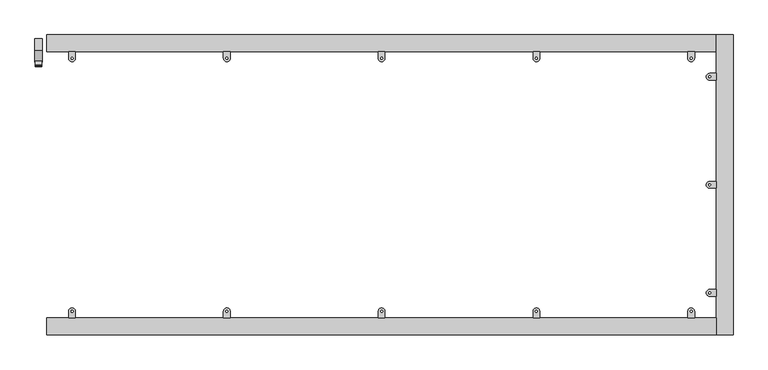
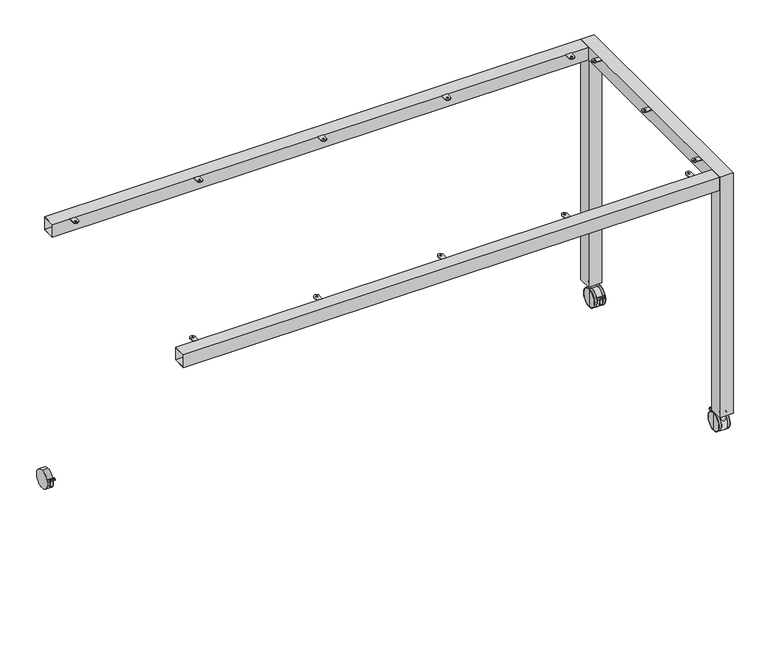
"""IFC4 building model written with IfcOpenShell, lengths in millimetres: furniture geometry, Tables with Castors : Tables with Castors."""

from ifc_helpers import new_model, si_unit, point, frame, frame_2d, origin, place, context, project, spatial, polyline, circle_curve, ellipse_curve, trimmed, segment, composite_curve, outline, extrude, faceted_brep, source, transform, mapped, element, save
from ifc_brep_helpers import plane_surface, cylinder_surface, revolved_surface, advanced_brep


def furniture_1f2e3726(model_context):
    return source(origin(), model_context, "Body", "SolidModel", [
        extrude(outline(composite_curve([segment(polyline([(-471.2500113, -397.5000094), (-471.2500113, -377.5000129)]), True, "CONTINUOUS"), segment(trimmed(circle_curve(frame_2d((-461.250004, -377.5000129)), 10.0000073), [point((-471.2500113, -377.5000129))], [point((-451.2499967, -377.5000129))], False, "CARTESIAN"), True, "CONTINUOUS"), segment(polyline([(-451.2499967, -377.5000129), (-451.2499967, -397.5000094), (-471.2500113, -397.5000094)]), True, "CONTINUOUS")], self_intersect=False), holes=[composite_curve([segment(trimmed(circle_curve(frame_2d((-461.250004, -377.5000129)), 3.0000178), [point((-461.250004, -380.5000308))], [point((-461.250004, -374.4999951))], True, "CARTESIAN"), True, "CONTINUOUS"), segment(trimmed(circle_curve(frame_2d((-461.250004, -377.5000129)), 3.0000178), [point((-461.250004, -374.4999951))], [point((-461.250004, -380.5000308))], True, "CARTESIAN"), True, "CONTINUOUS")], self_intersect=False)]), frame((0.0, 0.0, 1023.0000078), z_axis=(0.0, 0.0, 1.0), x_axis=(1.0, 0.0, 0.0)), (0.0, 0.0, 1.0), 2.0),
        extrude(outline(composite_curve([segment(polyline([(471.2500113, -397.5000094), (451.2499967, -397.5000094), (451.2499967, -377.5000129)]), True, "CONTINUOUS"), segment(trimmed(circle_curve(frame_2d((461.250004, -377.5000129)), 10.0000073), [point((451.2499967, -377.5000129))], [point((471.2500113, -377.5000129))], False, "CARTESIAN"), True, "CONTINUOUS"), segment(polyline([(471.2500113, -377.5000129), (471.2500113, -397.5000094)]), True, "CONTINUOUS")], self_intersect=False), holes=[composite_curve([segment(trimmed(circle_curve(frame_2d((461.250004, -377.5000129)), 3.0000178), [point((461.250004, -380.5000308))], [point((461.250004, -374.4999951))], True, "CARTESIAN"), True, "CONTINUOUS"), segment(trimmed(circle_curve(frame_2d((461.250004, -377.5000129)), 3.0000178), [point((461.250004, -374.4999951))], [point((461.250004, -380.5000308))], True, "CARTESIAN"), True, "CONTINUOUS")], self_intersect=False)]), frame((0.0, 0.0, 1023.0000078), z_axis=(0.0, 0.0, 1.0), x_axis=(1.0, 0.0, 0.0)), (0.0, 0.0, 1.0), 2.0),
        extrude(outline(composite_curve([segment(polyline([(-10.0000073, -397.5000094), (-10.0000073, -377.5000129)]), True, "CONTINUOUS"), segment(trimmed(circle_curve(frame_2d((0.0, -377.5000129)), 10.0000073), [point((-10.0000073, -377.5000129))], [point((10.0000073, -377.5000129))], False, "CARTESIAN"), True, "CONTINUOUS"), segment(polyline([(10.0000073, -377.5000129), (10.0000073, -397.5000094), (-10.0000073, -397.5000094)]), True, "CONTINUOUS")], self_intersect=False), holes=[composite_curve([segment(trimmed(circle_curve(frame_2d((0.0, -377.5000129)), 3.0000178), [point((0.0, -380.5000308))], [point((0.0, -374.4999951))], True, "CARTESIAN"), True, "CONTINUOUS"), segment(trimmed(circle_curve(frame_2d((0.0, -377.5000129)), 3.0000178), [point((0.0, -374.4999951))], [point((0.0, -380.5000308))], True, "CARTESIAN"), True, "CONTINUOUS")], self_intersect=False)]), frame((0.0, 0.0, 1023.0000078), z_axis=(0.0, 0.0, 1.0), x_axis=(1.0, 0.0, 0.0)), (0.0, 0.0, 1.0), 2.0),
        extrude(outline(composite_curve([segment(polyline([(-932.5000154, -397.5000094), (-932.5000154, -377.5000129)]), True, "CONTINUOUS"), segment(trimmed(circle_curve(frame_2d((-922.500008, -377.5000129)), 10.0000073), [point((-932.5000154, -377.5000129))], [point((-912.5000007, -377.5000129))], False, "CARTESIAN"), True, "CONTINUOUS"), segment(polyline([(-912.5000007, -377.5000129), (-912.5000007, -397.5000094), (-932.5000154, -397.5000094)]), True, "CONTINUOUS")], self_intersect=False), holes=[composite_curve([segment(trimmed(circle_curve(frame_2d((-922.500008, -377.5000129)), 3.0000178), [point((-922.500008, -380.5000308))], [point((-922.500008, -374.4999951))], True, "CARTESIAN"), True, "CONTINUOUS"), segment(trimmed(circle_curve(frame_2d((-922.500008, -377.5000129)), 3.0000178), [point((-922.500008, -374.4999951))], [point((-922.500008, -380.5000308))], True, "CARTESIAN"), True, "CONTINUOUS")], self_intersect=False)]), frame((0.0, 0.0, 1023.0000078), z_axis=(0.0, 0.0, 1.0), x_axis=(1.0, 0.0, 0.0)), (0.0, 0.0, 1.0), 2.0),
        extrude(outline(composite_curve([segment(polyline([(932.5000154, -397.5000094), (912.5000007, -397.5000094), (912.5000007, -377.5000129)]), True, "CONTINUOUS"), segment(trimmed(circle_curve(frame_2d((922.500008, -377.5000129)), 10.0000073), [point((912.5000007, -377.5000129))], [point((932.5000154, -377.5000129))], False, "CARTESIAN"), True, "CONTINUOUS"), segment(polyline([(932.5000154, -377.5000129), (932.5000154, -397.5000094)]), True, "CONTINUOUS")], self_intersect=False), holes=[composite_curve([segment(trimmed(circle_curve(frame_2d((922.500008, -377.5000129)), 3.0000178), [point((922.500008, -380.5000308))], [point((922.500008, -374.4999951))], True, "CARTESIAN"), True, "CONTINUOUS"), segment(trimmed(circle_curve(frame_2d((922.500008, -377.5000129)), 3.0000178), [point((922.500008, -374.4999951))], [point((922.500008, -380.5000308))], True, "CARTESIAN"), True, "CONTINUOUS")], self_intersect=False)]), frame((0.0, 0.0, 1023.0000078), z_axis=(0.0, 0.0, 1.0), x_axis=(1.0, 0.0, 0.0)), (0.0, 0.0, 1.0), 2.0),
        extrude(outline(polyline([(-447.5000115, 975.0000074), (-447.5000115, 1025.0000078), (-397.5000094, 1025.0000078), (-397.5000094, 975.0000074), (-447.5000115, 975.0000074)]), holes=[polyline([(-445.5000115, 977.0000307), (-399.50001, 977.0000307), (-399.50001, 1022.9999846), (-445.5000115, 1022.9999846), (-445.5000115, 977.0000307)])]), frame((-997.500008, 0.0, 0.0), z_axis=(1.0, 0.0, 0.0), x_axis=(0.0, 1.0, 0.0)), (0.0, 0.0, 1.0), 1995.000016),
        extrude(outline(composite_curve([segment(polyline([(357.9685066, 48.9081939), (361.2352403, 46.687017), (361.2352403, 27.7839799)]), True, "CONTINUOUS"), segment(trimmed(circle_curve(frame_2d((362.6016558, 27.7839799)), 1.3664155), [point((361.2352403, 27.7839799))], [point((362.6016558, 26.4175645))], True, "CARTESIAN"), True, "CONTINUOUS"), segment(polyline([(362.6016558, 26.4175645), (367.1160325, 26.4175645)]), True, "CONTINUOUS"), segment(trimmed(circle_curve(frame_2d((401.0474609, 35.0000007)), 35.0000007), [point((367.1160325, 26.4175645))], [point((368.1142136, 23.1508966))], True, "CARTESIAN"), True, "CONTINUOUS"), segment(polyline([(368.1142136, 23.1508966), (362.6068348, 23.1508966)]), True, "CONTINUOUS"), segment(trimmed(circle_curve(frame_2d((362.6068348, 27.7892248)), 4.6383283), [point((362.6068348, 23.1508966))], [point((357.9685066, 27.7892248))], False, "CARTESIAN"), True, "CONTINUOUS"), segment(polyline([(357.9685066, 27.7892248), (357.9685066, 48.9081939)]), True, "CONTINUOUS")], self_intersect=False)), frame((1019.2332006, 0.0, 0.0), z_axis=(1.0, 0.0, 0.0), x_axis=(0.0, 1.0, 0.0)), (0.0, 0.0, 1.0), 6.5333221),
        extrude(outline(composite_curve([segment(polyline([(357.6505092, 58.7178702), (369.6843508, 50.535617)]), True, "CONTINUOUS"), segment(trimmed(circle_curve(frame_2d((401.0474609, 35.0000007)), 35.0000007), [point((369.6843508, 50.535617))], [point((366.9309416, 42.8142925))], True, "CARTESIAN"), True, "CONTINUOUS"), segment(polyline([(366.9309416, 42.8142925), (353.4577649, 51.9752192)]), True, "CONTINUOUS"), segment(trimmed(circle_curve(frame_2d((355.0166454, 54.267899)), 2.7724518), [point((353.4577649, 51.9752192))], [point((353.0562119, 56.2283044))], False, "CARTESIAN"), True, "CONTINUOUS"), segment(polyline([(353.0562119, 56.2283044), (355.3263057, 58.4984306)]), True, "CONTINUOUS"), segment(trimmed(circle_curve(frame_2d((356.6210037, 57.203751)), 1.8309665), [point((355.3263057, 58.4984306))], [point((357.6505092, 58.7178702))], False, "CARTESIAN"), True, "CONTINUOUS")], self_intersect=False)), frame((1013.1667104, 0.0, 0.0), z_axis=(1.0, 0.0, 0.0), x_axis=(0.0, 1.0, 0.0)), (0.0, 0.0, 1.0), 18.6665932),
        extrude(outline(composite_curve([segment(trimmed(circle_curve(frame_2d((401.0474609, 35.0000007)), 35.0000007), [point((401.0474609, 70.0000014))], [point((401.0474609, 0.0))], False, "CARTESIAN"), True, "CONTINUOUS"), segment(trimmed(circle_curve(frame_2d((401.0474609, 35.0000007)), 35.0000007), [point((401.0474609, 0.0))], [point((401.0474609, 70.0000014))], False, "CARTESIAN"), True, "CONTINUOUS")], self_intersect=False)), frame((1011.7665052, 0.0, 0.0), z_axis=(1.0, 0.0, 0.0), x_axis=(0.0, 1.0, 0.0)), (0.0, 0.0, 1.0), 21.466713),
        advanced_brep(
        [(1027.5001378, 422.5000032, 104.1413359), (1017.4998761, 422.5000032, 104.1413359), (1018.5001058, 422.5000032, 105.0000044), (1026.4999082, 422.5000032, 105.0000044), (1027.5001378, 422.5000032, 84.9999988), (1017.4998761, 422.5000032, 84.9999988), (1029.5000157, 422.5000032, 84.9999988), (1015.4999982, 422.5000032, 84.9999988), (1029.5000157, 422.5000032, 80.0000042), (1015.4999982, 422.5000032, 80.0000042), (1032.3172355, 422.5000032, 80.0000042), (1012.6827784, 422.5000032, 80.0000042), (1033.2335088, 422.5000032, 79.083731), (1011.7665052, 422.5000032, 79.083731), (1033.2335088, 422.5000032, 47.275048), (1011.7665052, 422.5000032, 47.275048), (1022.500007, 422.5000032, 47.275048), (1022.500007, 422.5000032, 105.0000044)],
        [
            (0, 1, circle_curve(frame((1022.500007, 422.5000032, 104.1413359), z_axis=(0.0, 0.0, 1.0), x_axis=(-1.0, 0.0, 0.0)), 5.0001308)),
            (1, 2),
            (2, 3, circle_curve(frame((1022.500007, 422.5000032, 105.0000044), z_axis=(0.0, 0.0, -1.0), x_axis=(-1.0, 0.0, 0.0)), 3.9999012)),
            (3, 0),
            (1, 0, circle_curve(frame((1022.500007, 422.5000032, 104.1413359), z_axis=(0.0, 0.0, 1.0), x_axis=(-1.0, 0.0, 0.0)), 5.0001308)),
            (3, 2, circle_curve(frame((1022.500007, 422.5000032, 105.0000044), z_axis=(0.0, 0.0, -1.0), x_axis=(-1.0, 0.0, 0.0)), 3.9999012)),
            (4, 5, circle_curve(frame((1022.500007, 422.5000032, 84.9999988), z_axis=(0.0, 0.0, 1.0), x_axis=(-1.0, 0.0, 0.0)), 5.0001308)),
            (5, 1),
            (0, 4),
            (5, 4, circle_curve(frame((1022.500007, 422.5000032, 84.9999988), z_axis=(0.0, 0.0, 1.0), x_axis=(-1.0, 0.0, 0.0)), 5.0001308)),
            (6, 7, circle_curve(frame((1022.500007, 422.5000032, 84.9999988), z_axis=(0.0, 0.0, 1.0), x_axis=(-1.0, 0.0, 0.0)), 7.0000088)),
            (7, 5),
            (4, 6),
            (7, 6, circle_curve(frame((1022.500007, 422.5000032, 84.9999988), z_axis=(0.0, 0.0, 1.0), x_axis=(-1.0, 0.0, 0.0)), 7.0000088)),
            (8, 9, circle_curve(frame((1022.500007, 422.5000032, 80.0000042), z_axis=(0.0, 0.0, 1.0), x_axis=(-1.0, 0.0, 0.0)), 7.0000088)),
            (9, 7),
            (6, 8),
            (9, 8, circle_curve(frame((1022.500007, 422.5000032, 80.0000042), z_axis=(0.0, 0.0, 1.0), x_axis=(-1.0, 0.0, 0.0)), 7.0000088)),
            (10, 11, circle_curve(frame((1022.500007, 422.5000032, 80.0000042), z_axis=(0.0, 0.0, 1.0), x_axis=(-1.0, 0.0, 0.0)), 9.8172285)),
            (11, 9),
            (8, 10),
            (11, 10, circle_curve(frame((1022.500007, 422.5000032, 80.0000042), z_axis=(0.0, 0.0, 1.0), x_axis=(-1.0, 0.0, 0.0)), 9.8172285)),
            (12, 13, circle_curve(frame((1022.500007, 422.5000032, 79.083731), z_axis=(0.0, 0.0, 1.0), x_axis=(-1.0, 0.0, 0.0)), 10.7335018)),
            (13, 11, circle_curve(frame((1012.6827784, 422.5000032, 79.083731), z_axis=(0.0, 1.0, 0.0), x_axis=(1.0, 0.0, 0.0)), 0.9162733)),
            (10, 12, circle_curve(frame((1032.3172355, 422.5000032, 79.083731), z_axis=(0.0, 1.0, 0.0), x_axis=(-1.0, 0.0, 0.0)), 0.9162733)),
            (13, 12, circle_curve(frame((1022.500007, 422.5000032, 79.083731), z_axis=(0.0, 0.0, 1.0), x_axis=(-1.0, 0.0, 0.0)), 10.7335018)),
            (14, 15, circle_curve(frame((1022.500007, 422.5000032, 47.275048), z_axis=(0.0, 0.0, 1.0), x_axis=(-1.0, 0.0, 0.0)), 10.7335018)),
            (15, 13),
            (12, 14),
            (15, 14, circle_curve(frame((1022.500007, 422.5000032, 47.275048), z_axis=(0.0, 0.0, 1.0), x_axis=(-1.0, 0.0, 0.0)), 10.7335018)),
            (16, 15),
            (14, 16),
            (2, 17),
            (17, 3),
        ],
        [
            revolved_surface(polyline([(1018.5001058, 422.5000032, 105.0000044), (1017.4998761, 422.5000032, 104.1413359)]), (1022.500007, 422.5000032, 106.1065775), (0.0, 0.0, -1.0)),
            cylinder_surface(frame((1022.500007, 422.5000032, 106.1065775), z_axis=(0.0, 0.0, -1.0), x_axis=(-1.0, 0.0, 0.0)), 5.0001308),
            plane_surface(frame((1022.500007, 422.5000032, 84.9999988), z_axis=(0.0, 0.0, 1.0), x_axis=(-1.0, 0.0, 0.0))),
            cylinder_surface(frame((1022.500007, 422.5000032, 106.1065775), z_axis=(0.0, 0.0, -1.0), x_axis=(-1.0, 0.0, 0.0)), 7.0000088),
            plane_surface(frame((1022.500007, 422.5000032, 80.0000042), z_axis=(0.0, 0.0, 1.0), x_axis=(-1.0, 0.0, 0.0))),
            revolved_surface(trimmed(ellipse_curve(frame((1012.6827784, 422.5000032, 79.083731), z_axis=(0.0, -1.0, 0.0), x_axis=(1.0, 0.0, 0.0)), 0.9162733, 0.9162733), [point((1012.6827784, 422.5000032, 80.0000042))], [point((1011.7665052, 422.5000032, 79.083731))], True, "CARTESIAN"), (1022.500007, 422.5000032, 106.1065775), (0.0, 0.0, -1.0)),
            cylinder_surface(frame((1022.500007, 422.5000032, 106.1065775), z_axis=(0.0, 0.0, -1.0), x_axis=(-1.0, 0.0, 0.0)), 10.7335018),
            plane_surface(frame((1022.500007, 422.5000032, 47.275048), z_axis=(0.0, 0.0, -1.0), x_axis=(-1.0, 0.0, 0.0))),
            plane_surface(frame((1022.500007, 422.5000032, 105.0000044), z_axis=(0.0, 0.0, 1.0), x_axis=(-1.0, 0.0, 0.0))),
        ],
        [
            (0, [[1, 2, 3, 4]]),
            (0, [[5, -4, 6, -2]]),
            (1, [[7, 8, -1, 9]]),
            (1, [[10, -9, -5, -8]]),
            (2, [[11, 12, -7, 13]]),
            (2, [[14, -13, -10, -12]]),
            (3, [[15, 16, -11, 17]]),
            (3, [[18, -17, -14, -16]]),
            (4, [[19, 20, -15, 21]]),
            (4, [[22, -21, -18, -20]]),
            (5, [[23, 24, -19, 25]]),
            (5, [[26, -25, -22, -24]]),
            (6, [[27, 28, -23, 29]]),
            (6, [[30, -29, -26, -28]]),
            (7, [[31, -27, 32]]),
            (7, [[-32, -30, -31]]),
            (8, [[-3, 33, 34]]),
            (8, [[-6, -34, -33]]),
        ],
    ),
        advanced_brep(
        [(1001.4999806, 401.0474609, 1.0), (1001.4999806, 401.0474609, 69.0000014), (1002.4999806, 401.0474609, 70.0000014), (1002.4999806, 401.0474609, 0.0), (1001.4999806, 401.0474609, 35.0000007), (1011.7665052, 401.0474609, 0.0), (1011.7665052, 401.0474609, 70.0000014), (1011.7665052, 401.0474609, 35.0000007)],
        [
            (0, 1, circle_curve(frame((1001.4999806, 401.0474609, 35.0000007), z_axis=(1.0, 0.0, 0.0), x_axis=(0.0, 0.0, 1.0)), 34.0000007)),
            (1, 2, circle_curve(frame((1002.4999806, 401.0474609, 69.0000014), z_axis=(0.0, 1.0, 0.0), x_axis=(1.0, 0.0, 0.0)), 1.0)),
            (2, 3, circle_curve(frame((1002.4999806, 401.0474609, 35.0000007), z_axis=(-1.0, 0.0, 0.0), x_axis=(0.0, 0.0, 1.0)), 35.0000007)),
            (3, 0, circle_curve(frame((1002.4999806, 401.0474609, 1.0), z_axis=(0.0, 1.0, 0.0), x_axis=(1.0, 0.0, 0.0)), 1.0)),
            (1, 0, circle_curve(frame((1001.4999806, 401.0474609, 35.0000007), z_axis=(1.0, 0.0, 0.0), x_axis=(0.0, 0.0, 1.0)), 34.0000007)),
            (3, 2, circle_curve(frame((1002.4999806, 401.0474609, 35.0000007), z_axis=(-1.0, 0.0, 0.0), x_axis=(0.0, 0.0, 1.0)), 35.0000007)),
            (4, 1),
            (0, 4),
            (5, 6, circle_curve(frame((1011.7665052, 401.0474609, 35.0000007), z_axis=(1.0, 0.0, 0.0), x_axis=(0.0, 0.0, 1.0)), 35.0000007)),
            (6, 7),
            (7, 5),
            (6, 5, circle_curve(frame((1011.7665052, 401.0474609, 35.0000007), z_axis=(1.0, 0.0, 0.0), x_axis=(0.0, 0.0, 1.0)), 35.0000007)),
            (2, 6),
            (5, 3),
        ],
        [
            revolved_surface(trimmed(ellipse_curve(frame((1002.4999806, 401.0474609, 69.0000014), z_axis=(0.0, -1.0, 0.0), x_axis=(1.0, 0.0, 0.0)), 1.0, 1.0), [point((1002.4999806, 401.0474609, 70.0000014))], [point((1001.4999806, 401.0474609, 69.0000014))], True, "CARTESIAN"), (1011.7665052, 401.0474609, 35.0000007), (-1.0, 0.0, 0.0)),
            plane_surface(frame((1001.4999806, 401.0474609, 35.0000007), z_axis=(-1.0, 0.0, 0.0), x_axis=(0.0, 0.0, 1.0))),
            plane_surface(frame((1011.7665052, 401.0474609, 35.0000007), z_axis=(1.0, 0.0, 0.0), x_axis=(0.0, 0.0, 1.0))),
            cylinder_surface(frame((1011.7665052, 401.0474609, 35.0000007), z_axis=(-1.0, 0.0, 0.0), x_axis=(0.0, 0.0, 1.0)), 35.0000007),
        ],
        [
            (0, [[1, 2, 3, 4]]),
            (0, [[5, -4, 6, -2]]),
            (1, [[7, -1, 8]]),
            (1, [[-8, -5, -7]]),
            (2, [[9, 10, 11]]),
            (2, [[12, -11, -10]]),
            (3, [[-3, 13, -9, 14]]),
            (3, [[-6, -14, -12, -13]]),
        ],
    ),
        advanced_brep(
        [(1033.2332181, 401.0474609, 0.0), (1033.2332181, 401.0474609, 70.0000014), (1042.4997426, 401.0474609, 70.0000014), (1042.4997426, 401.0474609, 0.0), (1033.2332181, 401.0474609, 35.0000007), (1043.4997426, 401.0474609, 1.0), (1043.4997426, 401.0474609, 69.0000014), (1043.4997426, 401.0474609, 35.0000007)],
        [
            (0, 1, circle_curve(frame((1033.2332181, 401.0474609, 35.0000007), z_axis=(1.0, 0.0, 0.0), x_axis=(0.0, 0.0, 1.0)), 35.0000007)),
            (1, 2),
            (2, 3, circle_curve(frame((1042.4997426, 401.0474609, 35.0000007), z_axis=(-1.0, 0.0, 0.0), x_axis=(0.0, 0.0, 1.0)), 35.0000007)),
            (3, 0),
            (1, 0, circle_curve(frame((1033.2332181, 401.0474609, 35.0000007), z_axis=(1.0, 0.0, 0.0), x_axis=(0.0, 0.0, 1.0)), 35.0000007)),
            (3, 2, circle_curve(frame((1042.4997426, 401.0474609, 35.0000007), z_axis=(-1.0, 0.0, 0.0), x_axis=(0.0, 0.0, 1.0)), 35.0000007)),
            (4, 1),
            (0, 4),
            (5, 6, circle_curve(frame((1043.4997426, 401.0474609, 35.0000007), z_axis=(1.0, 0.0, 0.0), x_axis=(0.0, 0.0, 1.0)), 34.0000007)),
            (6, 7),
            (7, 5),
            (6, 5, circle_curve(frame((1043.4997426, 401.0474609, 35.0000007), z_axis=(1.0, 0.0, 0.0), x_axis=(0.0, 0.0, 1.0)), 34.0000007)),
            (2, 6, circle_curve(frame((1042.4997426, 401.0474609, 69.0000014), z_axis=(0.0, 1.0, 0.0), x_axis=(-1.0, 0.0, 0.0)), 1.0)),
            (5, 3, circle_curve(frame((1042.4997426, 401.0474609, 1.0), z_axis=(0.0, 1.0, 0.0), x_axis=(-1.0, 0.0, 0.0)), 1.0)),
        ],
        [
            cylinder_surface(frame((1011.7665052, 401.0474609, 35.0000007), z_axis=(-1.0, 0.0, 0.0), x_axis=(0.0, 0.0, 1.0)), 35.0000007),
            plane_surface(frame((1033.2332181, 401.0474609, 35.0000007), z_axis=(-1.0, 0.0, 0.0), x_axis=(0.0, 0.0, 1.0))),
            plane_surface(frame((1043.4997426, 401.0474609, 35.0000007), z_axis=(1.0, 0.0, 0.0), x_axis=(0.0, 0.0, 1.0))),
            revolved_surface(trimmed(ellipse_curve(frame((1042.4997426, 401.0474609, 69.0000014), z_axis=(0.0, -1.0, 0.0), x_axis=(-1.0, 0.0, 0.0)), 1.0, 1.0), [point((1043.4997426, 401.0474609, 69.0000014))], [point((1042.4997426, 401.0474609, 70.0000014))], True, "CARTESIAN"), (1011.7665052, 401.0474609, 35.0000007), (-1.0, 0.0, 0.0)),
        ],
        [
            (0, [[1, 2, 3, 4]]),
            (0, [[5, -4, 6, -2]]),
            (1, [[7, -1, 8]]),
            (1, [[-8, -5, -7]]),
            (2, [[9, 10, 11]]),
            (2, [[12, -11, -10]]),
            (3, [[-3, 13, -9, 14]]),
            (3, [[-6, -14, -12, -13]]),
        ],
    ),
        extrude(outline(composite_curve([segment(polyline([(-357.9685066, 48.9081939), (-357.9685066, 27.7892248)]), True, "CONTINUOUS"), segment(trimmed(circle_curve(frame_2d((-362.6068348, 27.7892248)), 4.6383283), [point((-357.9685066, 27.7892248))], [point((-362.6068348, 23.1508966))], False, "CARTESIAN"), True, "CONTINUOUS"), segment(polyline([(-362.6068348, 23.1508966), (-368.1142136, 23.1508966)]), True, "CONTINUOUS"), segment(trimmed(circle_curve(frame_2d((-401.0474609, 35.0000007)), 35.0000007), [point((-368.1142136, 23.1508966))], [point((-367.1160325, 26.4175645))], True, "CARTESIAN"), True, "CONTINUOUS"), segment(polyline([(-367.1160325, 26.4175645), (-362.6016558, 26.4175645)]), True, "CONTINUOUS"), segment(trimmed(circle_curve(frame_2d((-362.6016558, 27.7839799)), 1.3664155), [point((-362.6016558, 26.4175645))], [point((-361.2352403, 27.7839799))], True, "CARTESIAN"), True, "CONTINUOUS"), segment(polyline([(-361.2352403, 27.7839799), (-361.2352403, 46.687017), (-357.9685066, 48.9081939)]), True, "CONTINUOUS")], self_intersect=False)), frame((1019.2332006, 0.0, 0.0), z_axis=(1.0, 0.0, 0.0), x_axis=(0.0, 1.0, 0.0)), (0.0, 0.0, 1.0), 6.5333221),
        extrude(outline(composite_curve([segment(trimmed(circle_curve(frame_2d((-356.6210037, 57.203751)), 1.8309665), [point((-357.6505092, 58.7178702))], [point((-355.3263057, 58.4984306))], False, "CARTESIAN"), True, "CONTINUOUS"), segment(polyline([(-355.3263057, 58.4984306), (-353.0562119, 56.2283044)]), True, "CONTINUOUS"), segment(trimmed(circle_curve(frame_2d((-355.0166454, 54.267899)), 2.7724518), [point((-353.0562119, 56.2283044))], [point((-353.4577649, 51.9752192))], False, "CARTESIAN"), True, "CONTINUOUS"), segment(polyline([(-353.4577649, 51.9752192), (-366.9309416, 42.8142925)]), True, "CONTINUOUS"), segment(trimmed(circle_curve(frame_2d((-401.0474609, 35.0000007)), 35.0000007), [point((-366.9309416, 42.8142925))], [point((-369.6843508, 50.535617))], True, "CARTESIAN"), True, "CONTINUOUS"), segment(polyline([(-369.6843508, 50.535617), (-357.6505092, 58.7178702)]), True, "CONTINUOUS")], self_intersect=False)), frame((1013.1667104, 0.0, 0.0), z_axis=(1.0, 0.0, 0.0), x_axis=(0.0, 1.0, 0.0)), (0.0, 0.0, 1.0), 18.6665932),
        extrude(outline(composite_curve([segment(trimmed(circle_curve(frame_2d((-401.0474609, 35.0000007)), 35.0000007), [point((-401.0474609, 70.0000014))], [point((-401.0474609, 0.0))], False, "CARTESIAN"), True, "CONTINUOUS"), segment(trimmed(circle_curve(frame_2d((-401.0474609, 35.0000007)), 35.0000007), [point((-401.0474609, 0.0))], [point((-401.0474609, 70.0000014))], False, "CARTESIAN"), True, "CONTINUOUS")], self_intersect=False)), frame((1011.7665052, 0.0, 0.0), z_axis=(1.0, 0.0, 0.0), x_axis=(0.0, 1.0, 0.0)), (0.0, 0.0, 1.0), 21.466713),
        advanced_brep(
        [(1027.5001378, -422.5000032, 104.1413359), (1026.4999082, -422.5000032, 105.0000044), (1018.5001058, -422.5000032, 105.0000044), (1017.4998761, -422.5000032, 104.1413359), (1027.5001378, -422.5000032, 84.9999988), (1017.4998761, -422.5000032, 84.9999988), (1029.5000157, -422.5000032, 84.9999988), (1015.4999982, -422.5000032, 84.9999988), (1029.5000157, -422.5000032, 80.0000042), (1015.4999982, -422.5000032, 80.0000042), (1032.3172355, -422.5000032, 80.0000042), (1012.6827784, -422.5000032, 80.0000042), (1033.2335088, -422.5000032, 79.083731), (1011.7665052, -422.5000032, 79.083731), (1033.2335088, -422.5000032, 47.275048), (1011.7665052, -422.5000032, 47.275048), (1022.500007, -422.5000032, 47.275048), (1022.500007, -422.5000032, 105.0000044)],
        [
            (0, 1),
            (1, 2, circle_curve(frame((1022.500007, -422.5000032, 105.0000044), z_axis=(0.0, 0.0, -1.0), x_axis=(-1.0, 0.0, 0.0)), 3.9999012)),
            (2, 3),
            (3, 0, circle_curve(frame((1022.500007, -422.5000032, 104.1413359), z_axis=(0.0, 0.0, 1.0), x_axis=(-1.0, 0.0, 0.0)), 5.0001308)),
            (2, 1, circle_curve(frame((1022.500007, -422.5000032, 105.0000044), z_axis=(0.0, 0.0, -1.0), x_axis=(-1.0, 0.0, 0.0)), 3.9999012)),
            (0, 3, circle_curve(frame((1022.500007, -422.5000032, 104.1413359), z_axis=(0.0, 0.0, 1.0), x_axis=(-1.0, 0.0, 0.0)), 5.0001308)),
            (4, 0),
            (3, 5),
            (5, 4, circle_curve(frame((1022.500007, -422.5000032, 84.9999988), z_axis=(0.0, 0.0, 1.0), x_axis=(-1.0, 0.0, 0.0)), 5.0001308)),
            (4, 5, circle_curve(frame((1022.500007, -422.5000032, 84.9999988), z_axis=(0.0, 0.0, 1.0), x_axis=(-1.0, 0.0, 0.0)), 5.0001308)),
            (6, 4),
            (5, 7),
            (7, 6, circle_curve(frame((1022.500007, -422.5000032, 84.9999988), z_axis=(0.0, 0.0, 1.0), x_axis=(-1.0, 0.0, 0.0)), 7.0000088)),
            (6, 7, circle_curve(frame((1022.500007, -422.5000032, 84.9999988), z_axis=(0.0, 0.0, 1.0), x_axis=(-1.0, 0.0, 0.0)), 7.0000088)),
            (8, 6),
            (7, 9),
            (9, 8, circle_curve(frame((1022.500007, -422.5000032, 80.0000042), z_axis=(0.0, 0.0, 1.0), x_axis=(-1.0, 0.0, 0.0)), 7.0000088)),
            (8, 9, circle_curve(frame((1022.500007, -422.5000032, 80.0000042), z_axis=(0.0, 0.0, 1.0), x_axis=(-1.0, 0.0, 0.0)), 7.0000088)),
            (10, 8),
            (9, 11),
            (11, 10, circle_curve(frame((1022.500007, -422.5000032, 80.0000042), z_axis=(0.0, 0.0, 1.0), x_axis=(-1.0, 0.0, 0.0)), 9.8172285)),
            (10, 11, circle_curve(frame((1022.500007, -422.5000032, 80.0000042), z_axis=(0.0, 0.0, 1.0), x_axis=(-1.0, 0.0, 0.0)), 9.8172285)),
            (12, 10, circle_curve(frame((1032.3172355, -422.5000032, 79.083731), z_axis=(0.0, -1.0, 0.0), x_axis=(-1.0, 0.0, 0.0)), 0.9162733)),
            (11, 13, circle_curve(frame((1012.6827784, -422.5000032, 79.083731), z_axis=(0.0, -1.0, 0.0), x_axis=(1.0, 0.0, 0.0)), 0.9162733)),
            (13, 12, circle_curve(frame((1022.500007, -422.5000032, 79.083731), z_axis=(0.0, 0.0, 1.0), x_axis=(-1.0, 0.0, 0.0)), 10.7335018)),
            (12, 13, circle_curve(frame((1022.500007, -422.5000032, 79.083731), z_axis=(0.0, 0.0, 1.0), x_axis=(-1.0, 0.0, 0.0)), 10.7335018)),
            (14, 12),
            (13, 15),
            (15, 14, circle_curve(frame((1022.500007, -422.5000032, 47.275048), z_axis=(0.0, 0.0, 1.0), x_axis=(-1.0, 0.0, 0.0)), 10.7335018)),
            (14, 15, circle_curve(frame((1022.500007, -422.5000032, 47.275048), z_axis=(0.0, 0.0, 1.0), x_axis=(-1.0, 0.0, 0.0)), 10.7335018)),
            (16, 14),
            (15, 16),
            (1, 17),
            (17, 2),
        ],
        [
            revolved_surface(polyline([(1018.5001058, -422.5000032, 105.0000044), (1017.4998761, -422.5000032, 104.1413359)]), (1022.500007, -422.5000032, 106.1065775), (0.0, 0.0, -1.0)),
            cylinder_surface(frame((1022.500007, -422.5000032, 106.1065775), z_axis=(0.0, 0.0, -1.0), x_axis=(-1.0, 0.0, 0.0)), 5.0001308),
            plane_surface(frame((1022.500007, -422.5000032, 84.9999988), z_axis=(0.0, 0.0, 1.0), x_axis=(-1.0, 0.0, 0.0))),
            cylinder_surface(frame((1022.500007, -422.5000032, 106.1065775), z_axis=(0.0, 0.0, -1.0), x_axis=(-1.0, 0.0, 0.0)), 7.0000088),
            plane_surface(frame((1022.500007, -422.5000032, 80.0000042), z_axis=(0.0, 0.0, 1.0), x_axis=(-1.0, 0.0, 0.0))),
            revolved_surface(trimmed(ellipse_curve(frame((1012.6827784, -422.5000032, 79.083731), z_axis=(0.0, -1.0, 0.0), x_axis=(1.0, 0.0, 0.0)), 0.9162733, 0.9162733), [point((1012.6827784, -422.5000032, 80.0000042))], [point((1011.7665052, -422.5000032, 79.083731))], True, "CARTESIAN"), (1022.500007, -422.5000032, 106.1065775), (0.0, 0.0, -1.0)),
            cylinder_surface(frame((1022.500007, -422.5000032, 106.1065775), z_axis=(0.0, 0.0, -1.0), x_axis=(-1.0, 0.0, 0.0)), 10.7335018),
            plane_surface(frame((1022.500007, -422.5000032, 47.275048), z_axis=(0.0, 0.0, -1.0), x_axis=(-1.0, 0.0, 0.0))),
            plane_surface(frame((1022.500007, -422.5000032, 105.0000044), z_axis=(0.0, 0.0, 1.0), x_axis=(-1.0, 0.0, 0.0))),
        ],
        [
            (0, [[1, 2, 3, 4]]),
            (0, [[-3, 5, -1, 6]]),
            (1, [[7, -4, 8, 9]]),
            (1, [[-8, -6, -7, 10]]),
            (2, [[11, -9, 12, 13]]),
            (2, [[-12, -10, -11, 14]]),
            (3, [[15, -13, 16, 17]]),
            (3, [[-16, -14, -15, 18]]),
            (4, [[19, -17, 20, 21]]),
            (4, [[-20, -18, -19, 22]]),
            (5, [[23, -21, 24, 25]]),
            (5, [[-24, -22, -23, 26]]),
            (6, [[27, -25, 28, 29]]),
            (6, [[-28, -26, -27, 30]]),
            (7, [[31, -29, 32]]),
            (7, [[-32, -30, -31]]),
            (8, [[33, 34, -2]]),
            (8, [[-34, -33, -5]]),
        ],
    ),
        advanced_brep(
        [(1001.4999806, -401.0474609, 1.0), (1002.4999806, -401.0474609, 0.0), (1002.4999806, -401.0474609, 70.0000014), (1001.4999806, -401.0474609, 69.0000014), (1001.4999806, -401.0474609, 35.0000007), (1011.7665052, -401.0474609, 0.0), (1011.7665052, -401.0474609, 35.0000007), (1011.7665052, -401.0474609, 70.0000014)],
        [
            (0, 1, circle_curve(frame((1002.4999806, -401.0474609, 1.0), z_axis=(0.0, -1.0, 0.0), x_axis=(1.0, 0.0, 0.0)), 1.0)),
            (1, 2, circle_curve(frame((1002.4999806, -401.0474609, 35.0000007), z_axis=(-1.0, 0.0, 0.0), x_axis=(0.0, 0.0, 1.0)), 35.0000007)),
            (2, 3, circle_curve(frame((1002.4999806, -401.0474609, 69.0000014), z_axis=(0.0, -1.0, 0.0), x_axis=(1.0, 0.0, 0.0)), 1.0)),
            (3, 0, circle_curve(frame((1001.4999806, -401.0474609, 35.0000007), z_axis=(1.0, 0.0, 0.0), x_axis=(0.0, 0.0, 1.0)), 34.0000007)),
            (2, 1, circle_curve(frame((1002.4999806, -401.0474609, 35.0000007), z_axis=(-1.0, 0.0, 0.0), x_axis=(0.0, 0.0, 1.0)), 35.0000007)),
            (0, 3, circle_curve(frame((1001.4999806, -401.0474609, 35.0000007), z_axis=(1.0, 0.0, 0.0), x_axis=(0.0, 0.0, 1.0)), 34.0000007)),
            (4, 0),
            (3, 4),
            (5, 6),
            (6, 7),
            (7, 5, circle_curve(frame((1011.7665052, -401.0474609, 35.0000007), z_axis=(1.0, 0.0, 0.0), x_axis=(0.0, 0.0, 1.0)), 35.0000007)),
            (5, 7, circle_curve(frame((1011.7665052, -401.0474609, 35.0000007), z_axis=(1.0, 0.0, 0.0), x_axis=(0.0, 0.0, 1.0)), 35.0000007)),
            (1, 5),
            (7, 2),
        ],
        [
            revolved_surface(trimmed(ellipse_curve(frame((1002.4999806, -401.0474609, 69.0000014), z_axis=(0.0, -1.0, 0.0), x_axis=(1.0, 0.0, 0.0)), 1.0, 1.0), [point((1002.4999806, -401.0474609, 70.0000014))], [point((1001.4999806, -401.0474609, 69.0000014))], True, "CARTESIAN"), (1011.7665052, -401.0474609, 35.0000007), (-1.0, 0.0, 0.0)),
            plane_surface(frame((1001.4999806, -401.0474609, 35.0000007), z_axis=(-1.0, 0.0, 0.0), x_axis=(0.0, 0.0, 1.0))),
            plane_surface(frame((1011.7665052, -401.0474609, 35.0000007), z_axis=(1.0, 0.0, 0.0), x_axis=(0.0, 0.0, 1.0))),
            cylinder_surface(frame((1011.7665052, -401.0474609, 35.0000007), z_axis=(-1.0, 0.0, 0.0), x_axis=(0.0, 0.0, 1.0)), 35.0000007),
        ],
        [
            (0, [[1, 2, 3, 4]]),
            (0, [[-3, 5, -1, 6]]),
            (1, [[7, -4, 8]]),
            (1, [[-8, -6, -7]]),
            (2, [[9, 10, 11]]),
            (2, [[-10, -9, 12]]),
            (3, [[13, -11, 14, -2]]),
            (3, [[-14, -12, -13, -5]]),
        ],
    ),
        advanced_brep(
        [(1033.2332181, -401.0474609, 0.0), (1042.4997426, -401.0474609, 0.0), (1042.4997426, -401.0474609, 70.0000014), (1033.2332181, -401.0474609, 70.0000014), (1033.2332181, -401.0474609, 35.0000007), (1043.4997426, -401.0474609, 1.0), (1043.4997426, -401.0474609, 35.0000007), (1043.4997426, -401.0474609, 69.0000014)],
        [
            (0, 1),
            (1, 2, circle_curve(frame((1042.4997426, -401.0474609, 35.0000007), z_axis=(-1.0, 0.0, 0.0), x_axis=(0.0, 0.0, 1.0)), 35.0000007)),
            (2, 3),
            (3, 0, circle_curve(frame((1033.2332181, -401.0474609, 35.0000007), z_axis=(1.0, 0.0, 0.0), x_axis=(0.0, 0.0, 1.0)), 35.0000007)),
            (2, 1, circle_curve(frame((1042.4997426, -401.0474609, 35.0000007), z_axis=(-1.0, 0.0, 0.0), x_axis=(0.0, 0.0, 1.0)), 35.0000007)),
            (0, 3, circle_curve(frame((1033.2332181, -401.0474609, 35.0000007), z_axis=(1.0, 0.0, 0.0), x_axis=(0.0, 0.0, 1.0)), 35.0000007)),
            (4, 0),
            (3, 4),
            (5, 6),
            (6, 7),
            (7, 5, circle_curve(frame((1043.4997426, -401.0474609, 35.0000007), z_axis=(1.0, 0.0, 0.0), x_axis=(0.0, 0.0, 1.0)), 34.0000007)),
            (5, 7, circle_curve(frame((1043.4997426, -401.0474609, 35.0000007), z_axis=(1.0, 0.0, 0.0), x_axis=(0.0, 0.0, 1.0)), 34.0000007)),
            (1, 5, circle_curve(frame((1042.4997426, -401.0474609, 1.0), z_axis=(0.0, -1.0, 0.0), x_axis=(-1.0, 0.0, 0.0)), 1.0)),
            (7, 2, circle_curve(frame((1042.4997426, -401.0474609, 69.0000014), z_axis=(0.0, -1.0, 0.0), x_axis=(-1.0, 0.0, 0.0)), 1.0)),
        ],
        [
            cylinder_surface(frame((1011.7665052, -401.0474609, 35.0000007), z_axis=(-1.0, 0.0, 0.0), x_axis=(0.0, 0.0, 1.0)), 35.0000007),
            plane_surface(frame((1033.2332181, -401.0474609, 35.0000007), z_axis=(-1.0, 0.0, 0.0), x_axis=(0.0, 0.0, 1.0))),
            plane_surface(frame((1043.4997426, -401.0474609, 35.0000007), z_axis=(1.0, 0.0, 0.0), x_axis=(0.0, 0.0, 1.0))),
            revolved_surface(trimmed(ellipse_curve(frame((1042.4997426, -401.0474609, 69.0000014), z_axis=(0.0, -1.0, 0.0), x_axis=(-1.0, 0.0, 0.0)), 1.0, 1.0), [point((1043.4997426, -401.0474609, 69.0000014))], [point((1042.4997426, -401.0474609, 70.0000014))], True, "CARTESIAN"), (1011.7665052, -401.0474609, 35.0000007), (-1.0, 0.0, 0.0)),
        ],
        [
            (0, [[1, 2, 3, 4]]),
            (0, [[-3, 5, -1, 6]]),
            (1, [[7, -4, 8]]),
            (1, [[-8, -6, -7]]),
            (2, [[9, 10, 11]]),
            (2, [[-10, -9, 12]]),
            (3, [[13, -11, 14, -2]]),
            (3, [[-14, -12, -13, -5]]),
        ],
    ),
        extrude(outline(composite_curve([segment(polyline([(997.5000059, -10.0000073), (977.5000094, -10.0000073)]), True, "CONTINUOUS"), segment(trimmed(circle_curve(frame_2d((977.5000094, 0.0)), 10.0000073), [point((977.5000094, -10.0000073))], [point((977.5000094, 10.0000073))], False, "CARTESIAN"), True, "CONTINUOUS"), segment(polyline([(977.5000094, 10.0000073), (997.5000059, 10.0000073), (997.5000059, -10.0000073)]), True, "CONTINUOUS")], self_intersect=False), holes=[composite_curve([segment(trimmed(circle_curve(frame_2d((977.5000094, 0.0)), 3.0000178), [point((980.5000272, 0.0))], [point((974.4999916, 0.0))], True, "CARTESIAN"), True, "CONTINUOUS"), segment(trimmed(circle_curve(frame_2d((977.5000094, 0.0)), 3.0000178), [point((974.4999916, 0.0))], [point((980.5000272, 0.0))], True, "CARTESIAN"), True, "CONTINUOUS")], self_intersect=False)]), frame((0.0, 0.0, 1023.0000078), z_axis=(0.0, 0.0, 1.0), x_axis=(1.0, 0.0, 0.0)), (0.0, 0.0, 1.0), 2.0),
        extrude(outline(composite_curve([segment(polyline([(997.5000059, -332.4999735), (977.5000094, -332.4999735)]), True, "CONTINUOUS"), segment(trimmed(circle_curve(frame_2d((977.5000094, -322.4999661)), 10.0000073), [point((977.5000094, -332.4999735))], [point((977.5000094, -312.4999588))], False, "CARTESIAN"), True, "CONTINUOUS"), segment(polyline([(977.5000094, -312.4999588), (997.5000059, -312.4999588), (997.5000059, -332.4999735)]), True, "CONTINUOUS")], self_intersect=False), holes=[composite_curve([segment(trimmed(circle_curve(frame_2d((977.5000094, -322.4999661)), 3.0000178), [point((980.5000272, -322.4999661))], [point((974.4999916, -322.4999661))], True, "CARTESIAN"), True, "CONTINUOUS"), segment(trimmed(circle_curve(frame_2d((977.5000094, -322.4999661)), 3.0000178), [point((974.4999916, -322.4999661))], [point((980.5000272, -322.4999661))], True, "CARTESIAN"), True, "CONTINUOUS")], self_intersect=False)]), frame((0.0, 0.0, 1023.0000078), z_axis=(0.0, 0.0, 1.0), x_axis=(1.0, 0.0, 0.0)), (0.0, 0.0, 1.0), 2.0),
        extrude(outline(composite_curve([segment(polyline([(997.5000059, 332.4999735), (997.5000059, 312.4999588), (977.5000094, 312.4999588)]), True, "CONTINUOUS"), segment(trimmed(circle_curve(frame_2d((977.5000094, 322.4999661)), 10.0000073), [point((977.5000094, 312.4999588))], [point((977.5000094, 332.4999735))], False, "CARTESIAN"), True, "CONTINUOUS"), segment(polyline([(977.5000094, 332.4999735), (997.5000059, 332.4999735)]), True, "CONTINUOUS")], self_intersect=False), holes=[composite_curve([segment(trimmed(circle_curve(frame_2d((977.5000094, 322.4999661)), 3.0000178), [point((980.5000272, 322.4999661))], [point((974.4999916, 322.4999661))], True, "CARTESIAN"), True, "CONTINUOUS"), segment(trimmed(circle_curve(frame_2d((977.5000094, 322.4999661)), 3.0000178), [point((974.4999916, 322.4999661))], [point((980.5000272, 322.4999661))], True, "CARTESIAN"), True, "CONTINUOUS")], self_intersect=False)]), frame((0.0, 0.0, 1023.0000078), z_axis=(0.0, 0.0, 1.0), x_axis=(1.0, 0.0, 0.0)), (0.0, 0.0, 1.0), 2.0),
        extrude(outline(polyline([(999.5000065, 399.5000263), (999.5000065, 445.4999802), (1045.500008, 445.4999802), (1045.500008, 399.5000263), (999.5000065, 399.5000263)]), holes=[composite_curve([segment(trimmed(circle_curve(frame_2d((1022.500007, 422.5000023)), 5.4999988), [point((1028.0000058, 422.5000023))], [point((1017.0000082, 422.5000023))], True, "CARTESIAN"), True, "CONTINUOUS"), segment(trimmed(circle_curve(frame_2d((1022.500007, 422.5000023)), 5.4999988), [point((1017.0000082, 422.5000023))], [point((1028.0000058, 422.5000023))], True, "CARTESIAN"), True, "CONTINUOUS")], self_intersect=False)]), frame((0.0, 0.0, 80.0), z_axis=(0.0, 0.0, 1.0), x_axis=(1.0, 0.0, 0.0)), (0.0, 0.0, 1.0), 1.9999994),
        extrude(outline(polyline([(999.5000065, -399.5000263), (1045.500008, -399.5000263), (1045.500008, -445.4999802), (999.5000065, -445.4999802), (999.5000065, -399.5000263)]), holes=[composite_curve([segment(trimmed(circle_curve(frame_2d((1022.500007, -422.5000023)), 5.4999988), [point((1028.0000058, -422.5000023))], [point((1017.0000082, -422.5000023))], True, "CARTESIAN"), True, "CONTINUOUS"), segment(trimmed(circle_curve(frame_2d((1022.500007, -422.5000023)), 5.4999988), [point((1017.0000082, -422.5000023))], [point((1028.0000058, -422.5000023))], True, "CARTESIAN"), True, "CONTINUOUS")], self_intersect=False)]), frame((0.0, 0.0, 80.0), z_axis=(0.0, 0.0, 1.0), x_axis=(1.0, 0.0, 0.0)), (0.0, 0.0, 1.0), 1.9999994),
        faceted_brep([(1047.500008, 397.5000031, 80.0), (997.5000059, 397.5000031, 80.0), (997.5000059, 447.5000034, 80.0), (1047.500008, 447.5000034, 80.0), (1045.500008, 399.5000263, 80.0), (1045.500008, 445.4999802, 80.0), (999.5000065, 445.4999802, 80.0), (999.5000065, 399.5000263, 80.0), (1047.500008, 447.5000034, 1025.0000078), (1047.500008, -447.5000034, 1025.0000078), (1047.500008, -447.5000034, 80.0), (1047.500008, -397.5000031, 80.0), (1047.500008, -397.5000031, 975.0000074), (1047.500008, 397.5000031, 975.0000074), (997.5000059, 447.5000034, 1025.0000078), (997.5000059, 397.5000031, 975.0000074), (997.5000059, -397.5000031, 975.0000074), (997.5000059, -397.5000031, 80.0), (997.5000059, -447.5000034, 80.0), (997.5000059, -447.5000034, 1025.0000078), (999.5000065, 399.5000263, 977.0000307), (1045.500008, 399.5000263, 977.0000307), (999.5000065, 445.4999802, 1022.9999846), (999.5000065, -445.4999802, 1022.9999846), (999.5000065, -445.4999802, 80.0), (999.5000065, -399.5000263, 80.0), (999.5000065, -399.5000263, 977.0000307), (1045.500008, 445.4999802, 1022.9999846), (1045.500008, -399.5000263, 977.0000307), (1045.500008, -399.5000263, 80.0), (1045.500008, -445.4999802, 80.0), (1045.500008, -445.4999802, 1022.9999846)], [[[0, 1, 2, 3], [4, 5, 6, 7]], [[3, 8, 9, 10, 11, 12, 13, 0]], [[2, 14, 8, 3]], [[1, 15, 16, 17, 18, 19, 14, 2]], [[0, 13, 15, 1]], [[7, 20, 21, 4]], [[6, 22, 23, 24, 25, 26, 20, 7]], [[5, 27, 22, 6]], [[4, 21, 28, 29, 30, 31, 27, 5]], [[14, 19, 9, 8]], [[13, 12, 16, 15]], [[20, 26, 28, 21]], [[27, 31, 23, 22]], [[11, 10, 18, 17], [29, 25, 24, 30]], [[19, 18, 10, 9]], [[12, 11, 17, 16]], [[26, 25, 29, 28]], [[31, 30, 24, 23]]]),
        extrude(outline(composite_curve([segment(polyline([(-471.2500113, 397.5000094), (-451.2499967, 397.5000094), (-451.2499967, 377.5000129)]), True, "CONTINUOUS"), segment(trimmed(circle_curve(frame_2d((-461.250004, 377.5000129)), 10.0000073), [point((-451.2499967, 377.5000129))], [point((-471.2500113, 377.5000129))], False, "CARTESIAN"), True, "CONTINUOUS"), segment(polyline([(-471.2500113, 377.5000129), (-471.2500113, 397.5000094)]), True, "CONTINUOUS")], self_intersect=False), holes=[composite_curve([segment(trimmed(circle_curve(frame_2d((-461.250004, 377.5000129)), 3.0000178), [point((-461.250004, 380.5000308))], [point((-461.250004, 374.4999951))], True, "CARTESIAN"), True, "CONTINUOUS"), segment(trimmed(circle_curve(frame_2d((-461.250004, 377.5000129)), 3.0000178), [point((-461.250004, 374.4999951))], [point((-461.250004, 380.5000308))], True, "CARTESIAN"), True, "CONTINUOUS")], self_intersect=False)]), frame((0.0, 0.0, 1023.0000078), z_axis=(0.0, 0.0, 1.0), x_axis=(1.0, 0.0, 0.0)), (0.0, 0.0, 1.0), 2.0),
        extrude(outline(composite_curve([segment(polyline([(471.2500113, 397.5000094), (471.2500113, 377.5000129)]), True, "CONTINUOUS"), segment(trimmed(circle_curve(frame_2d((461.250004, 377.5000129)), 10.0000073), [point((471.2500113, 377.5000129))], [point((451.2499967, 377.5000129))], False, "CARTESIAN"), True, "CONTINUOUS"), segment(polyline([(451.2499967, 377.5000129), (451.2499967, 397.5000094), (471.2500113, 397.5000094)]), True, "CONTINUOUS")], self_intersect=False), holes=[composite_curve([segment(trimmed(circle_curve(frame_2d((461.250004, 377.5000129)), 3.0000178), [point((461.250004, 380.5000308))], [point((461.250004, 374.4999951))], True, "CARTESIAN"), True, "CONTINUOUS"), segment(trimmed(circle_curve(frame_2d((461.250004, 377.5000129)), 3.0000178), [point((461.250004, 374.4999951))], [point((461.250004, 380.5000308))], True, "CARTESIAN"), True, "CONTINUOUS")], self_intersect=False)]), frame((0.0, 0.0, 1023.0000078), z_axis=(0.0, 0.0, 1.0), x_axis=(1.0, 0.0, 0.0)), (0.0, 0.0, 1.0), 2.0),
        extrude(outline(composite_curve([segment(polyline([(-10.0000073, 397.5000094), (10.0000073, 397.5000094), (10.0000073, 377.5000129)]), True, "CONTINUOUS"), segment(trimmed(circle_curve(frame_2d((0.0, 377.5000129)), 10.0000073), [point((10.0000073, 377.5000129))], [point((-10.0000073, 377.5000129))], False, "CARTESIAN"), True, "CONTINUOUS"), segment(polyline([(-10.0000073, 377.5000129), (-10.0000073, 397.5000094)]), True, "CONTINUOUS")], self_intersect=False), holes=[composite_curve([segment(trimmed(circle_curve(frame_2d((0.0, 377.5000129)), 3.0000178), [point((0.0, 380.5000308))], [point((0.0, 374.4999951))], True, "CARTESIAN"), True, "CONTINUOUS"), segment(trimmed(circle_curve(frame_2d((0.0, 377.5000129)), 3.0000178), [point((0.0, 374.4999951))], [point((0.0, 380.5000308))], True, "CARTESIAN"), True, "CONTINUOUS")], self_intersect=False)]), frame((0.0, 0.0, 1023.0000078), z_axis=(0.0, 0.0, 1.0), x_axis=(1.0, 0.0, 0.0)), (0.0, 0.0, 1.0), 2.0),
        extrude(outline(composite_curve([segment(polyline([(-932.5000154, 397.5000094), (-912.5000007, 397.5000094), (-912.5000007, 377.5000129)]), True, "CONTINUOUS"), segment(trimmed(circle_curve(frame_2d((-922.500008, 377.5000129)), 10.0000073), [point((-912.5000007, 377.5000129))], [point((-932.5000154, 377.5000129))], False, "CARTESIAN"), True, "CONTINUOUS"), segment(polyline([(-932.5000154, 377.5000129), (-932.5000154, 397.5000094)]), True, "CONTINUOUS")], self_intersect=False), holes=[composite_curve([segment(trimmed(circle_curve(frame_2d((-922.500008, 377.5000129)), 3.0000178), [point((-922.500008, 380.5000308))], [point((-922.500008, 374.4999951))], True, "CARTESIAN"), True, "CONTINUOUS"), segment(trimmed(circle_curve(frame_2d((-922.500008, 377.5000129)), 3.0000178), [point((-922.500008, 374.4999951))], [point((-922.500008, 380.5000308))], True, "CARTESIAN"), True, "CONTINUOUS")], self_intersect=False)]), frame((0.0, 0.0, 1023.0000078), z_axis=(0.0, 0.0, 1.0), x_axis=(1.0, 0.0, 0.0)), (0.0, 0.0, 1.0), 2.0),
        extrude(outline(composite_curve([segment(polyline([(932.5000154, 397.5000094), (932.5000154, 377.5000129)]), True, "CONTINUOUS"), segment(trimmed(circle_curve(frame_2d((922.500008, 377.5000129)), 10.0000073), [point((932.5000154, 377.5000129))], [point((912.5000007, 377.5000129))], False, "CARTESIAN"), True, "CONTINUOUS"), segment(polyline([(912.5000007, 377.5000129), (912.5000007, 397.5000094), (932.5000154, 397.5000094)]), True, "CONTINUOUS")], self_intersect=False), holes=[composite_curve([segment(trimmed(circle_curve(frame_2d((922.500008, 377.5000129)), 3.0000178), [point((922.500008, 380.5000308))], [point((922.500008, 374.4999951))], True, "CARTESIAN"), True, "CONTINUOUS"), segment(trimmed(circle_curve(frame_2d((922.500008, 377.5000129)), 3.0000178), [point((922.500008, 374.4999951))], [point((922.500008, 380.5000308))], True, "CARTESIAN"), True, "CONTINUOUS")], self_intersect=False)]), frame((0.0, 0.0, 1023.0000078), z_axis=(0.0, 0.0, 1.0), x_axis=(1.0, 0.0, 0.0)), (0.0, 0.0, 1.0), 2.0),
        extrude(outline(polyline([(447.5000115, 975.0000074), (397.5000094, 975.0000074), (397.5000094, 1025.0000078), (447.5000115, 1025.0000078), (447.5000115, 975.0000074)]), holes=[polyline([(445.5000115, 977.0000307), (445.5000115, 1022.9999846), (399.50001, 1022.9999846), (399.50001, 977.0000307), (445.5000115, 977.0000307)])]), frame((-997.500008, 0.0, 0.0), z_axis=(1.0, 0.0, 0.0), x_axis=(0.0, 1.0, 0.0)), (0.0, 0.0, 1.0), 1995.000016),
        extrude(outline(composite_curve([segment(polyline([(357.9685066, 48.9081939), (361.2352403, 46.687017), (361.2352403, 27.7839799)]), True, "CONTINUOUS"), segment(trimmed(circle_curve(frame_2d((362.6016558, 27.7839799)), 1.3664155), [point((361.2352403, 27.7839799))], [point((362.6016558, 26.4175645))], True, "CARTESIAN"), True, "CONTINUOUS"), segment(polyline([(362.6016558, 26.4175645), (367.1160325, 26.4175645)]), True, "CONTINUOUS"), segment(trimmed(circle_curve(frame_2d((401.0474609, 35.0000007)), 35.0000007), [point((367.1160325, 26.4175645))], [point((368.1142136, 23.1508966))], True, "CARTESIAN"), True, "CONTINUOUS"), segment(polyline([(368.1142136, 23.1508966), (362.6068348, 23.1508966)]), True, "CONTINUOUS"), segment(trimmed(circle_curve(frame_2d((362.6068348, 27.7892248)), 4.6383283), [point((362.6068348, 23.1508966))], [point((357.9685066, 27.7892248))], False, "CARTESIAN"), True, "CONTINUOUS"), segment(polyline([(357.9685066, 27.7892248), (357.9685066, 48.9081939)]), True, "CONTINUOUS")], self_intersect=False)), frame((-1025.7665227, 0.0, 0.0), z_axis=(1.0, 0.0, 0.0), x_axis=(0.0, 1.0, 0.0)), (0.0, 0.0, 1.0), 6.5333221),
        extrude(outline(composite_curve([segment(polyline([(357.6505092, 58.7178702), (369.6843508, 50.535617)]), True, "CONTINUOUS"), segment(trimmed(circle_curve(frame_2d((401.0474609, 35.0000007)), 35.0000007), [point((369.6843508, 50.535617))], [point((366.9309416, 42.8142925))], True, "CARTESIAN"), True, "CONTINUOUS"), segment(polyline([(366.9309416, 42.8142925), (353.4577649, 51.9752192)]), True, "CONTINUOUS"), segment(trimmed(circle_curve(frame_2d((355.0166454, 54.267899)), 2.7724518), [point((353.4577649, 51.9752192))], [point((353.0562119, 56.2283044))], False, "CARTESIAN"), True, "CONTINUOUS"), segment(polyline([(353.0562119, 56.2283044), (355.3263057, 58.4984306)]), True, "CONTINUOUS"), segment(trimmed(circle_curve(frame_2d((356.6210037, 57.203751)), 1.8309665), [point((355.3263057, 58.4984306))], [point((357.6505092, 58.7178702))], False, "CARTESIAN"), True, "CONTINUOUS")], self_intersect=False)), frame((-1031.8333036, 0.0, 0.0), z_axis=(1.0, 0.0, 0.0), x_axis=(0.0, 1.0, 0.0)), (0.0, 0.0, 1.0), 18.6665932),
        extrude(outline(composite_curve([segment(trimmed(circle_curve(frame_2d((401.0474609, 35.0000007)), 35.0000007), [point((401.0474609, 70.0000014))], [point((401.0474609, 0.0))], False, "CARTESIAN"), True, "CONTINUOUS"), segment(trimmed(circle_curve(frame_2d((401.0474609, 35.0000007)), 35.0000007), [point((401.0474609, 0.0))], [point((401.0474609, 70.0000014))], False, "CARTESIAN"), True, "CONTINUOUS")], self_intersect=False)), frame((-1033.2332181, 0.0, 0.0), z_axis=(1.0, 0.0, 0.0), x_axis=(0.0, 1.0, 0.0)), (0.0, 0.0, 1.0), 21.466713),
    ])


if __name__ == "__main__":
    model = new_model("IFC4")
    model_context = context("Model", 3, world=origin())
    ifc_project = project(units=[si_unit("LENGTHUNIT", "METRE", prefix="MILLI")], contexts=[model_context])
    site = spatial("IfcSite", under=ifc_project)
    building = spatial("IfcBuilding", under=site)
    placement = place(None, origin())
    furniture_shape = furniture_1f2e3726(model_context)
    element("IfcFurniture", 1, ObjectType="Tables with Castors : Tables with Castors", at=placement, inside=building, context=model_context, shape_type="MappedRepresentation", body=[
        mapped(furniture_shape, transform((0.0, 0.0, 0.0), x_axis=(1.0, 0.0, 0.0), y_axis=(0.0, 1.0, 0.0), z_axis=(0.0, 0.0, 1.0))),
    ])
    save(model, "model.ifc")
